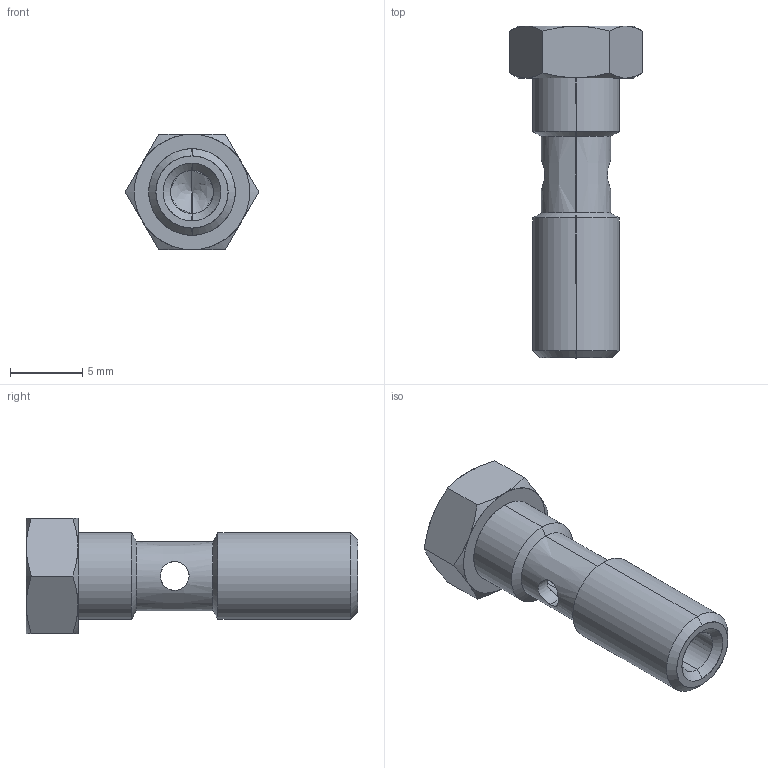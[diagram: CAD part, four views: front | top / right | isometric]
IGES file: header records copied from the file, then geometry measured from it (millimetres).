
Start section: SolidWorks IGES file using analytic representation for surfaces
Global section: file name: K:\Disegni Esecutivi\Serie 55000\55410\554100001B800.IGS; native system: SolidWorks 2008; preprocessor: SolidWorks 2008; author: cad02; date: 090225.083702; units: millimetre
Bounding box: 9.24 x 23 x 8 mm (x, y, z)
Surface area: 743.2 mm2 (no closed solid volume)
Topology: 0 solids, 0 shells, 43 faces, 586 edges, 584 vertices
Faces by surface type: revolution 34, bspline 9
